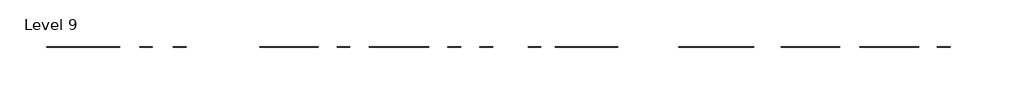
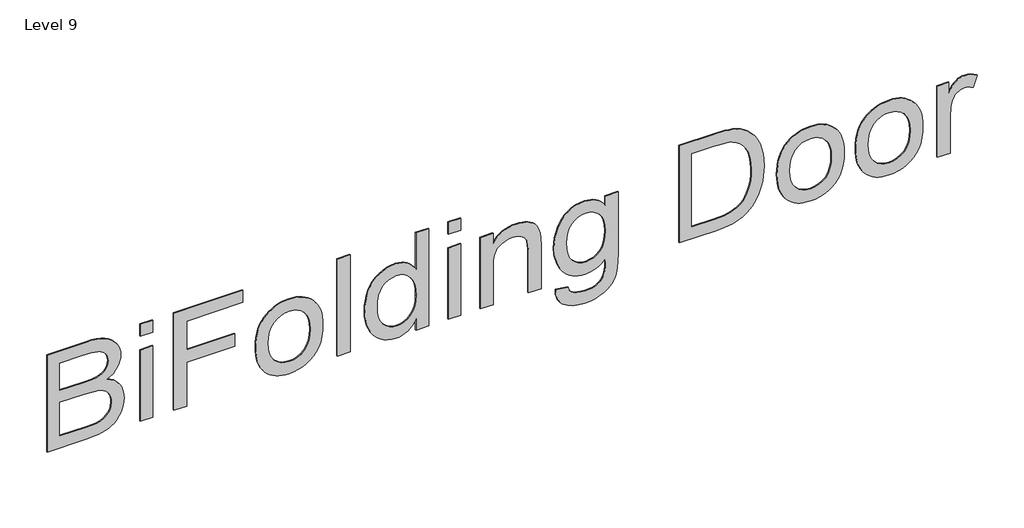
# One storey: 1 proxy.
"""IFC4 building model written with IfcOpenShell, lengths in millimetres."""

from ifc_helpers import new_model, si_unit, frame, origin, place, context, project, spatial, polyline, outline, extrude, element, save

model = new_model("IFC4")

# Units and contexts
model_context = context("Model", 3, world=origin())
ifc_project = project(units=[si_unit("LENGTHUNIT", "METRE", prefix="MILLI")], contexts=[model_context])

# Site, building, storey
site = spatial("IfcSite", under=ifc_project)
building = spatial("IfcBuilding", under=site)
storey = spatial("IfcBuildingStorey", under=building, Name="Level 9", Elevation=24000.0)

# Proxy
placement = place(None, origin())
element("IfcBuildingElementProxy", 1, Name="1200mm Arial", ObjectType="1200mm Arial", at=placement, inside=storey, context=model_context, shape_type="SweptSolid", body=[
    extrude(outline(polyline([(25020.9429249, -199630.0506511), (25020.9429249, -199185.0194011), (25026.0000982, -199082.1184778), (25032.3215648, -199037.2046816), (25041.1716181, -198996.6486625), (25052.4874917, -198959.8765566), (25066.2064192, -198926.3145005), (25082.3284008, -198895.9624941), (25100.8534363, -198868.8205375), (25122.6781877, -198844.3147669), (25148.699317, -198821.8713187), (25178.9168241, -198801.490193), (25213.330709, -198783.1713897), (25250.5870123, -198768.0447029), (25289.3317743, -198757.2399267), (25329.5649952, -198750.7570609), (25371.2866749, -198748.5961056), (25422.1991394, -198751.7613223), (25469.6325556, -198761.2569721), (25513.5869235, -198777.0830552), (25554.0622431, -198799.2395716), (25589.9645868, -198827.2781902), (25620.2000272, -198860.7505801), (25644.7685641, -198899.6567413), (25663.6701976, -198943.9966738), (25685.0197182, -198906.6327711), (25709.4716891, -198874.3081085), (25737.0261103, -198847.0226859), (25767.6829817, -198824.7765034), (25800.4201089, -198807.5157612), (25834.2152971, -198795.1866596), (25869.0685464, -198787.7891987), (25904.9798567, -198785.3233784), (25943.8591181, -198788.2554629), (25981.877584, -198797.0517164), (26019.0352545, -198811.712139), (26055.3321295, -198832.2367306), (26088.8762523, -198857.9350616), (26117.7756664, -198888.1167022), (26142.0303716, -198922.7816525), (26161.6403681, -198961.9299125), (26176.7670549, -199006.7002427), (26187.5718312, -199058.2314039), (26194.0546969, -199116.5233961), (26196.2156522, -199181.5762193), (26196.2156522, -199630.0506511), (25020.9429249, -199630.0506511)]), holes=[polyline([(25718.7611067, -199483.1415602), (26049.3065613, -199483.1415602), (26049.3065613, -199235.2324693), (26045.4688482, -199121.1770716), (26040.6717069, -199078.8904948), (26033.955709, -199046.4313329), (26024.6573248, -199020.4819366), (26012.1130243, -198997.7246568), (25996.3228077, -198978.1594934), (25977.2866749, -198961.7864466), (25955.802655, -198948.8565815), (25932.6687772, -198939.6209636), (25907.8850414, -198934.0795929), (25881.4514476, -198932.2324693), (25853.8432268, -198934.2140921), (25828.6918596, -198940.1589608), (25805.9973461, -198950.0670751), (25785.7596863, -198963.9384352), (25768.1044128, -198981.7192413), (25753.1570584, -199003.3556937), (25740.9176231, -199028.8477924), (25731.3861067, -199058.1955375), (25721.9173567, -199121.0336056), (25718.7611067, -199214.8603102), (25718.7611067, -199483.1415602)]), polyline([(25167.8520158, -199483.1415602), (25571.8520158, -199483.1415602), (25571.8520158, -199196.209742), (25566.9383084, -199091.5872278), (25560.7961742, -199049.6862157), (25552.1971863, -199014.725367), (25540.567481, -198985.4134885), (25525.3331948, -198960.4593869), (25506.4943276, -198939.8630623), (25484.0508795, -198923.6245147), (25458.7291465, -198911.322313), (25431.2554249, -198902.5350261), (25401.6297147, -198897.2626539), (25369.8520158, -198895.5051966), (25316.9848283, -198901.4948983), (25293.0798212, -198908.9820254), (25270.8605385, -198919.4640034), (25233.1648709, -198946.7225261), (25205.5835499, -198980.5804806), (25186.3232516, -199022.2214608), (25173.5906522, -199072.8290602), (25169.2866749, -199115.8688329), (25167.8520158, -199181.8631511), (25167.8520158, -199483.1415602)])]), frame((0.0, 24202.6264647, 0.0), z_axis=(0.0, 1.0, 0.0), x_axis=(0.0, 0.0, 1.0)), (0.0, 0.0, 1.0), 10.0),
    extrude(outline(polyline([(-198418.0506511, 24202.6264647), (-198564.959742, 24202.6264647), (-198564.959742, 24212.6264647), (-198418.0506511, 24212.6264647), (-198418.0506511, 24202.6264647)])), frame((0.0, 0.0, 25020.9429249), z_axis=(0.0, 0.0, 1.0), x_axis=(1.0, 0.0, 0.0)), (0.0, 0.0, 1.0), 863.0909091),
    extrude(outline(polyline([(-198418.0506511, 24202.6264647), (-198564.959742, 24202.6264647), (-198564.959742, 24212.6264647), (-198418.0506511, 24212.6264647), (-198418.0506511, 24202.6264647)])), frame((0.0, 0.0, 26049.3065613), z_axis=(0.0, 0.0, 1.0), x_axis=(1.0, 0.0, 0.0)), (0.0, 0.0, 1.0), 146.9090909),
    extrude(outline(polyline([(25020.9429249, -198179.3233784), (25020.9429249, -198032.4142875), (25553.4883795, -198032.4142875), (25553.4883795, -197481.5051966), (25700.3974704, -197481.5051966), (25700.3974704, -198032.4142875), (26049.3065613, -198032.4142875), (26049.3065613, -197389.6870147), (26196.2156522, -197389.6870147), (26196.2156522, -198179.3233784), (25020.9429249, -198179.3233784)])), frame((0.0, 24202.6264647, 0.0), z_axis=(0.0, 1.0, 0.0), x_axis=(0.0, 0.0, 1.0)), (0.0, 0.0, 1.0), 10.0),
    extrude(outline(polyline([(25452.4883795, -197242.7779238), (25399.5673922, -197241.1123743), (25349.8385215, -197236.1157257), (25303.3017672, -197227.787978), (25259.9571295, -197216.1291312), (25219.8046081, -197201.1391854), (25182.8442033, -197182.8181404), (25149.075915, -197161.1659964), (25118.4997431, -197136.1827534), (25091.3308866, -197108.5005579), (25067.7845442, -197078.7515566), (25047.8607161, -197046.9357496), (25031.5594022, -197013.0531369), (25018.8806025, -196977.1037184), (25009.824317, -196939.0874941), (25004.3905456, -196899.0044641), (25002.5792885, -196856.8546284), (25005.8700378, -196803.960541), (25015.7422857, -196753.1646426), (25032.1960322, -196704.4669331), (25055.2312772, -196657.8674125), (25084.2203574, -196615.033872), (25118.5356096, -196577.6341028), (25158.1770336, -196545.6681049), (25203.1446295, -196519.1358784), (25255.2048212, -196498.2974551), (25316.1240329, -196483.412867), (25385.9022644, -196474.4821142), (25464.5395158, -196471.5051966), (25514.440994, -196473.1886793), (25561.5673035, -196478.2391277), (25605.9184443, -196486.6565415), (25647.4944164, -196498.440921), (25686.2952198, -196513.592266), (25722.3208546, -196532.1105765), (25755.5713207, -196553.9958526), (25786.0466181, -196579.2480943), (25813.3163491, -196607.1544553), (25836.950116, -196637.0020893), (25856.9479187, -196668.7909964), (25873.3097573, -196702.5211767), (25886.0356318, -196738.19263), (25895.1255421, -196775.8053564), (25900.5794883, -196815.3593558), (25902.3974704, -196856.8546284), (25896.4257019, -196930.2733073), (25888.9609913, -196964.8037583), (25878.5103965, -196997.881617), (25865.0739175, -197029.5068833), (25848.6515542, -197059.6795573), (25829.2433067, -197088.399639), (25806.8491749, -197115.6671284), (25776.0802207, -197145.4587211), (25741.4466536, -197171.2781014), (25702.9484736, -197193.1252694), (25660.5856806, -197211.000225), (25614.3582747, -197224.9029682), (25564.2662559, -197234.8334991), (25510.3096241, -197240.7918176), (25452.4883795, -197242.7779238)]), holes=[polyline([(25452.7753113, -197095.8688329), (25524.0151018, -197091.6186554), (25585.6606096, -197078.8681227), (25637.7118347, -197057.6172349), (25680.1687772, -197027.865992), (25713.1211032, -196991.6767164), (25736.6584789, -196951.1117306), (25750.7809043, -196906.1710346), (25755.4883795, -196856.8546284), (25750.7629711, -196808.1389856), (25736.5867459, -196763.565921), (25712.959704, -196723.1354345), (25679.8818454, -196686.8475261), (25637.6221685, -196656.9079842), (25586.4496721, -196635.5225971), (25526.364356, -196622.6913649), (25457.3662204, -196618.4142875), (25384.4496721, -196622.664465), (25321.5040045, -196635.4149977), (25268.5292175, -196656.6658855), (25225.5253113, -196686.4171284), (25192.2591536, -196722.5705375), (25168.4976124, -196763.0279238), (25154.2406877, -196807.7892875), (25149.4883795, -196856.8546284), (25154.2137878, -196906.1710346), (25168.390013, -196951.1117306), (25192.0170549, -196991.6767164), (25225.0949135, -197027.865992), (25267.6773887, -197057.6172349), (25319.81828, -197078.8681227), (25381.5175876, -197091.6186554), (25452.7753113, -197095.8688329)])]), frame((0.0, 24202.6264647, 0.0), z_axis=(0.0, 1.0, 0.0), x_axis=(0.0, 0.0, 1.0)), (0.0, 0.0, 1.0), 10.0),
    extrude(outline(polyline([(-196159.3233784, 24202.6264647), (-196306.2324693, 24202.6264647), (-196306.2324693, 24212.6264647), (-196159.3233784, 24212.6264647), (-196159.3233784, 24202.6264647)])), frame((0.0, 0.0, 25020.9429249), z_axis=(0.0, 0.0, 1.0), x_axis=(1.0, 0.0, 0.0)), (0.0, 0.0, 1.0), 1175.2727273),
    extrude(outline(polyline([(25020.9429249, -195406.4142875), (25020.9429249, -195259.5051966), (26196.2156522, -195259.5051966), (26196.2156522, -195406.4142875), (25758.3576976, -195406.4142875), (25788.8531699, -195426.445715), (25816.3537914, -195449.2388613), (25840.859562, -195474.7937264), (25862.3704817, -195503.1103102), (25879.8822893, -195533.8478812), (25892.3907232, -195566.6657079), (25899.8957836, -195601.5637903), (25902.3974704, -195638.5421284), (25898.9004888, -195689.1048947), (25888.4095442, -195737.2108073), (25870.9246366, -195782.8598663), (25846.4457658, -195826.0520716), (25815.4033297, -195865.3975971), (25778.227726, -195899.506617), (25734.9189547, -195928.3791312), (25685.4770158, -195952.0151397), (25631.4800343, -195970.405676), (25574.5061351, -195983.5417733), (25514.5553184, -195991.4234316), (25451.627584, -195994.0506511), (25387.5252225, -195991.1992662), (25327.2067743, -195982.6451113), (25270.6722395, -195968.3881866), (25217.9216181, -195948.428492), (25169.8695052, -195923.2860914), (25127.4304959, -195893.4810488), (25090.6045904, -195859.0133642), (25059.3917885, -195819.8830375), (25034.5363198, -195777.4171284), (25016.7824135, -195732.9426966), (25006.1300698, -195686.459742), (25002.5792885, -195637.9682647), (25005.0316589, -195600.8957772), (25012.3887701, -195566.145644), (25024.650622, -195533.7178652), (25041.8172147, -195503.6124409), (25063.8885481, -195475.8293709), (25090.8646224, -195450.3686554), (25122.7454373, -195427.2302942), (25159.5309931, -195406.4142875), (25020.9429249, -195406.4142875)]), holes=[polyline([(25452.2014476, -195847.1415602), (25525.5573603, -195843.2679806), (25588.3864618, -195831.647242), (25640.6887523, -195812.2793443), (25682.4642317, -195785.1642875), (25714.4122964, -195752.2567946), (25737.2323425, -195715.5115886), (25750.9243702, -195674.9286696), (25755.4883795, -195630.5080375), (25750.7360712, -195585.0383109), (25736.4791465, -195543.3166312), (25712.7176053, -195505.3429984), (25679.4514476, -195471.1174125), (25636.0350769, -195442.8097953), (25581.8228965, -195422.5900687), (25516.8149064, -195410.4582328), (25441.0111067, -195406.4142875), (25371.8695052, -195410.3864998), (25312.2145868, -195422.3031369), (25262.0463518, -195442.1641987), (25221.3647999, -195469.9696852), (25189.918866, -195503.4600083), (25167.4574846, -195540.3755801), (25153.9806557, -195580.7164004), (25149.4883795, -195624.4824693), (25154.1958546, -195668.0423059), (25168.31828, -195708.625225), (25191.8556557, -195746.2312264), (25224.8079817, -195780.8603102), (25267.2649242, -195809.8583571), (25319.3161493, -195830.5712477), (25380.9616572, -195842.9989821), (25452.2014476, -195847.1415602)])]), frame((0.0, 24202.6264647, 0.0), z_axis=(0.0, 1.0, 0.0), x_axis=(0.0, 0.0, 1.0)), (0.0, 0.0, 1.0), 10.0),
    extrude(outline(polyline([(-194892.2324693, 24202.6264647), (-195039.1415602, 24202.6264647), (-195039.1415602, 24212.6264647), (-194892.2324693, 24212.6264647), (-194892.2324693, 24202.6264647)])), frame((0.0, 0.0, 25020.9429249), z_axis=(0.0, 0.0, 1.0), x_axis=(1.0, 0.0, 0.0)), (0.0, 0.0, 1.0), 863.0909091),
    extrude(outline(polyline([(-194892.2324693, 24202.6264647), (-195039.1415602, 24202.6264647), (-195039.1415602, 24212.6264647), (-194892.2324693, 24212.6264647), (-194892.2324693, 24202.6264647)])), frame((0.0, 0.0, 26049.3065613), z_axis=(0.0, 0.0, 1.0), x_axis=(1.0, 0.0, 0.0)), (0.0, 0.0, 1.0), 146.9090909),
    extrude(outline(polyline([(25020.9429249, -194671.8688329), (25020.9429249, -194524.959742), (25478.8861067, -194524.959742), (25553.0400485, -194520.7723308), (25614.246192, -194508.2100971), (25639.9938393, -194498.7884219), (25662.5045371, -194487.273041), (25681.7782854, -194473.6639545), (25697.815084, -194457.9611625), (25723.0471508, -194422.8747811), (25741.0700556, -194384.6142164), (25751.8837985, -194343.1794686), (25755.4883795, -194298.5705375), (25753.8833546, -194270.5319189), (25749.06828, -194244.3762903), (25741.0431557, -194220.1036518), (25729.8079817, -194197.7140034), (25715.8828219, -194177.8888081), (25699.7877403, -194161.3095289), (25681.5227367, -194147.976166), (25661.0878113, -194137.8887193), (25636.8241394, -194130.4822917), (25607.0728965, -194125.1919863), (25531.1076976, -194120.959742), (25020.9429249, -194120.959742), (25020.9429249, -193974.0506511), (25550.9059931, -193974.0506511), (25637.2007374, -193975.9874409), (25692.9372431, -193981.7978102), (25751.2202687, -193999.1213187), (25800.9670726, -194025.8418443), (25822.6124917, -194043.5419508), (25842.0700556, -194065.2232363), (25859.3397644, -194090.8857008), (25874.4216181, -194120.5293443), (25886.6610535, -194152.9257399), (25895.4035073, -194186.8464608), (25900.6489796, -194222.2915069), (25902.3974704, -194259.2608784), (25900.2275485, -194301.4488223), (25893.7177829, -194341.072313), (25882.8681735, -194378.1313507), (25867.6787204, -194412.6259352), (25848.1494235, -194444.5560666), (25824.2802829, -194473.9217448), (25796.0712985, -194500.72297), (25763.5224704, -194524.959742), (25884.033834, -194524.959742), (25884.033834, -194671.8688329), (25020.9429249, -194671.8688329)])), frame((0.0, 24202.6264647, 0.0), z_axis=(0.0, 1.0, 0.0), x_axis=(0.0, 0.0, 1.0)), (0.0, 0.0, 1.0), 10.0),
    extrude(outline(polyline([(24947.4883795, -193808.7779238), (24882.8121543, -193804.3394473), (24853.7221996, -193797.6077578), (24826.7976834, -193787.8677676), (24802.0386058, -193775.1194766), (24779.4449668, -193759.3628848), (24759.0167664, -193740.5979922), (24740.7540045, -193718.8247988), (24710.6889299, -193668.6386305), (24689.2138766, -193611.1895005), (24676.3288447, -193546.4774089), (24672.033834, -193474.5023556), (24675.0824846, -193413.323112), (24684.2284363, -193357.1831085), (24699.4716891, -193306.082345), (24720.8122431, -193260.0208216), (24747.3982694, -193219.4110027), (24778.3779391, -193184.6653528), (24813.7512523, -193155.783872), (24853.518209, -193132.7665602), (24902.8256486, -193115.1919863), (24966.8204107, -193102.6387193), (25045.5024952, -193095.1067591), (25138.8719022, -193092.5961056), (25884.033834, -193092.5961056), (25884.033834, -193239.5051966), (25773.8520158, -193239.5051966), (25803.9798567, -193263.5402196), (25830.0906522, -193289.1623343), (25852.1844022, -193316.3715407), (25870.2611067, -193345.1678386), (25884.3207658, -193375.5512282), (25894.3633795, -193407.5217093), (25900.3889476, -193441.0792821), (25902.3974704, -193476.2239466), (25898.8466891, -193528.2751717), (25888.1943454, -193576.8294153), (25870.4404391, -193621.8866774), (25845.5849704, -193663.4469579), (25814.2107694, -193700.9094934), (25776.9006664, -193733.6735204), (25733.6546614, -193761.7390389), (25684.4727545, -193785.1060488), (25631.1303361, -193803.496585), (25575.4027971, -193816.6326823), (25517.2901373, -193824.5143407), (25456.7923567, -193827.1415602), (25370.31828, -193821.2863578), (25329.475329, -193813.9673548), (25290.2284363, -193803.7207505), (25252.5776018, -193790.5465451), (25216.5228255, -193774.4447385), (25182.0641074, -193755.4153306), (25149.2014476, -193733.4583216), (25119.1408564, -193708.8337432), (25093.0883439, -193681.8016277), (25071.0439104, -193652.3619748), (25053.0075556, -193620.5147846), (25038.9792797, -193586.2600572), (25028.9590826, -193549.5977924), (25022.9469643, -193510.5279904), (25020.9429249, -193469.0506511), (25022.6645158, -193435.3989288), (25027.8292885, -193403.1639323), (25036.4372431, -193372.3456618), (25048.4883795, -193342.944117), (25063.9826976, -193314.9592981), (25082.9201976, -193288.3912051), (25105.3008795, -193263.2398379), (25131.1247431, -193239.5051966), (25023.0231806, -193241.5854522), (24959.8264476, -193249.5478102), (24928.2639476, -193261.0250829), (24900.4315613, -193276.8063329), (24876.3292885, -193296.8915602), (24855.9571295, -193321.2807647), (24839.763415, -193350.5836767), (24828.196476, -193385.4100261), (24821.2563127, -193425.759813), (24818.9429249, -193471.6330375), (24820.9873141, -193514.4396781), (24827.1204817, -193552.4760772), (24837.3424278, -193585.7422349), (24851.6531522, -193614.2381511), (24865.6410783, -193631.8485914), (24883.2156522, -193645.6571852), (24904.3768738, -193655.6639323), (24929.1247431, -193661.8688329), (24947.4883795, -193808.7779238)]), holes=[polyline([(25466.8349704, -193680.2324693), (25534.0218489, -193676.2602569), (25592.4035073, -193664.3436198), (25641.9799455, -193644.4825581), (25682.7511635, -193616.6770716), (25714.5736955, -193583.2046816), (25737.3040755, -193546.3429096), (25750.9423035, -193506.0917555), (25755.4883795, -193462.4512193), (25750.8705705, -193418.0664537), (25737.0171437, -193377.0172704), (25713.9280989, -193339.3036696), (25681.6034363, -193304.9256511), (25640.2045549, -193276.3042022), (25589.8928539, -193255.8603102), (25530.6683333, -193243.593975), (25462.5309931, -193239.5051966), (25391.4257019, -193243.4774089), (25330.4706238, -193255.394046), (25279.6657587, -193275.2551078), (25239.0111067, -193303.0605943), (25207.8790045, -193336.7123166), (25185.6417885, -193374.1120858), (25172.299459, -193415.2599018), (25167.8520158, -193460.1557647), (25172.3263589, -193505.4999586), (25185.749388, -193546.8450403), (25208.1211032, -193584.1910098), (25239.4415045, -193617.537867), (25280.4996543, -193644.9667555), (25332.0846153, -193664.5588187), (25394.1963873, -193676.3140566), (25466.8349704, -193680.2324693)])]), frame((0.0, 24202.6264647, 0.0), z_axis=(0.0, 1.0, 0.0), x_axis=(0.0, 0.0, 1.0)), (0.0, 0.0, 1.0), 10.0),
    extrude(outline(polyline([(25020.9429249, -192394.7779238), (25020.9429249, -191969.8319011), (25025.9642317, -191869.2264323), (25041.0281522, -191780.8872988), (25065.811888, -191704.6710346), (25081.7276373, -191671.0551788), (25099.9926408, -191640.4341738), (25121.234562, -191611.8844579), (25146.0810641, -191584.4824693), (25174.5321472, -191558.2282079), (25206.5878113, -191533.1216738), (25242.678454, -191509.7008642), (25283.2344732, -191488.5037761), (25328.2558688, -191469.5304096), (25377.7426408, -191452.7807647), (25431.3540577, -191439.0977037), (25488.749388, -191429.3240886), (25549.9286316, -191423.4599196), (25614.8917885, -191421.5051966), (25691.3232516, -191424.392448), (25763.3790045, -191433.0542022), (25831.0590471, -191447.4904593), (25894.3633795, -191467.7012193), (25952.7540045, -191493.7223485), (26005.6929249, -191525.5897136), (26053.1801408, -191563.3033144), (26095.2156522, -191606.8631511), (26123.2811706, -191644.5588187), (26146.6481806, -191685.912867), (26165.316682, -191730.925296), (26179.2866749, -191779.5961056), (26186.6931025, -191819.8203599), (26191.9834079, -191868.1863045), (26196.2156522, -191989.3432647), (26196.2156522, -192394.7779238), (25020.9429249, -192394.7779238)]), holes=[polyline([(25167.8520158, -192247.8688329), (26049.3065613, -192247.8688329), (26049.3065613, -191991.9256511), (26047.8360357, -191925.1064039), (26043.424459, -191868.1145716), (26036.0718312, -191820.9501539), (26025.7781522, -191783.6131511), (26005.2625272, -191740.4030126), (25976.7128113, -191700.5822562), (25940.1290045, -191664.1508819), (25895.5111067, -191631.1088897), (25841.6396579, -191603.6800012), (25777.2951976, -191584.087938), (25702.477726, -191572.3327001), (25617.1872431, -191568.4142875), (25554.3402083, -191570.4138436), (25496.3530812, -191576.4125119), (25443.2258617, -191586.4102924), (25394.9585499, -191600.4071852), (25351.4614796, -191617.9907257), (25312.6449846, -191638.7484494), (25278.5090648, -191662.6803564), (25249.0537204, -191689.7864466), (25230.7797502, -191711.7725971), (25214.6936351, -191737.2736625), (25200.7953752, -191766.2896426), (25189.0849704, -191798.8205375), (25179.7955528, -191836.3548059), (25173.1602545, -191880.3809068), (25167.8520158, -191987.9086056), (25167.8520158, -192247.8688329)])]), frame((0.0, 24202.6264647, 0.0), z_axis=(0.0, 1.0, 0.0), x_axis=(0.0, 0.0, 1.0)), (0.0, 0.0, 1.0), 10.0),
    extrude(outline(polyline([(25452.4883795, -191274.5961056), (25399.5673922, -191272.9305561), (25349.8385215, -191267.9339075), (25303.3017672, -191259.6061598), (25259.9571295, -191247.947313), (25219.8046081, -191232.9573672), (25182.8442033, -191214.6363223), (25149.075915, -191192.9841783), (25118.4997431, -191168.0009352), (25091.3308866, -191140.3187397), (25067.7845442, -191110.5697385), (25047.8607161, -191078.7539315), (25031.5594022, -191044.8713187), (25018.8806025, -191008.9219002), (25009.824317, -190970.905676), (25004.3905456, -190930.8226459), (25002.5792885, -190888.6728102), (25005.8700378, -190835.7787228), (25015.7422857, -190784.9828244), (25032.1960322, -190736.2851149), (25055.2312772, -190689.6855943), (25084.2203574, -190646.8520538), (25118.5356096, -190609.4522846), (25158.1770336, -190577.4862868), (25203.1446295, -190550.9540602), (25255.2048212, -190530.1156369), (25316.1240329, -190515.2310488), (25385.9022644, -190506.300296), (25464.5395158, -190503.3233784), (25514.440994, -190505.0068611), (25561.5673035, -190510.0573095), (25605.9184443, -190518.4747234), (25647.4944164, -190530.2591028), (25686.2952198, -190545.4104478), (25722.3208546, -190563.9287583), (25755.5713207, -190585.8140344), (25786.0466181, -190611.0662761), (25813.3163491, -190638.9726371), (25836.950116, -190668.8202711), (25856.9479187, -190700.6091783), (25873.3097573, -190734.3393585), (25886.0356318, -190770.0108118), (25895.1255421, -190807.6235382), (25900.5794883, -190847.1775376), (25902.3974704, -190888.6728102), (25896.4257019, -190962.0914892), (25888.9609913, -190996.6219402), (25878.5103965, -191029.6997988), (25865.0739175, -191061.3250652), (25848.6515542, -191091.4977392), (25829.2433067, -191120.2178208), (25806.8491749, -191147.4853102), (25776.0802207, -191177.2769029), (25741.4466536, -191203.0962832), (25702.9484736, -191224.9434512), (25660.5856806, -191242.8184068), (25614.3582747, -191256.72115), (25564.2662559, -191266.6516809), (25510.3096241, -191272.6099995), (25452.4883795, -191274.5961056)]), holes=[polyline([(25452.7753113, -191127.6870147), (25524.0151018, -191123.4368372), (25585.6606096, -191110.6863045), (25637.7118347, -191089.4354167), (25680.1687772, -191059.6841738), (25713.1211032, -191023.4948983), (25736.6584789, -190982.9299125), (25750.7809043, -190937.9892164), (25755.4883795, -190888.6728102), (25750.7629711, -190839.9571674), (25736.5867459, -190795.3841028), (25712.959704, -190754.9536163), (25679.8818454, -190718.6657079), (25637.6221685, -190688.726166), (25586.4496721, -190667.3407789), (25526.364356, -190654.5095467), (25457.3662204, -190650.2324693), (25384.4496721, -190654.4826468), (25321.5040045, -190667.2331795), (25268.5292175, -190688.4840673), (25225.5253113, -190718.2353102), (25192.2591536, -190754.3887193), (25168.4976124, -190794.8461056), (25154.2406877, -190839.6074693), (25149.4883795, -190888.6728102), (25154.2137878, -190937.9892164), (25168.390013, -190982.9299125), (25192.0170549, -191023.4948983), (25225.0949135, -191059.6841738), (25267.6773887, -191089.4354167), (25319.81828, -191110.6863045), (25381.5175876, -191123.4368372), (25452.7753113, -191127.6870147)])]), frame((0.0, 24202.6264647, 0.0), z_axis=(0.0, 1.0, 0.0), x_axis=(0.0, 0.0, 1.0)), (0.0, 0.0, 1.0), 10.0),
    extrude(outline(polyline([(25452.4883795, -190374.7779238), (25399.5673922, -190373.1123743), (25349.8385215, -190368.1157257), (25303.3017672, -190359.787978), (25259.9571295, -190348.1291312), (25219.8046081, -190333.1391854), (25182.8442033, -190314.8181404), (25149.075915, -190293.1659964), (25118.4997431, -190268.1827534), (25091.3308866, -190240.5005579), (25067.7845442, -190210.7515566), (25047.8607161, -190178.9357496), (25031.5594022, -190145.0531369), (25018.8806025, -190109.1037184), (25009.824317, -190071.0874941), (25004.3905456, -190031.0044641), (25002.5792885, -189988.8546284), (25005.8700378, -189935.960541), (25015.7422857, -189885.1646426), (25032.1960322, -189836.4669331), (25055.2312772, -189789.8674125), (25084.2203574, -189747.033872), (25118.5356096, -189709.6341028), (25158.1770336, -189677.6681049), (25203.1446295, -189651.1358784), (25255.2048212, -189630.2974551), (25316.1240329, -189615.412867), (25385.9022644, -189606.4821142), (25464.5395158, -189603.5051966), (25514.440994, -189605.1886793), (25561.5673035, -189610.2391277), (25605.9184443, -189618.6565415), (25647.4944164, -189630.440921), (25686.2952198, -189645.592266), (25722.3208546, -189664.1105765), (25755.5713207, -189685.9958526), (25786.0466181, -189711.2480943), (25813.3163491, -189739.1544553), (25836.950116, -189769.0020893), (25856.9479187, -189800.7909964), (25873.3097573, -189834.5211767), (25886.0356318, -189870.19263), (25895.1255421, -189907.8053564), (25900.5794883, -189947.3593558), (25902.3974704, -189988.8546284), (25896.4257019, -190062.2733073), (25888.9609913, -190096.8037583), (25878.5103965, -190129.881617), (25865.0739175, -190161.5068833), (25848.6515542, -190191.6795573), (25829.2433067, -190220.399639), (25806.8491749, -190247.6671284), (25776.0802207, -190277.4587211), (25741.4466536, -190303.2781014), (25702.9484736, -190325.1252694), (25660.5856806, -190343.000225), (25614.3582747, -190356.9029682), (25564.2662559, -190366.8334991), (25510.3096241, -190372.7918176), (25452.4883795, -190374.7779238)]), holes=[polyline([(25452.7753113, -190227.8688329), (25524.0151018, -190223.6186554), (25585.6606096, -190210.8681227), (25637.7118347, -190189.6172349), (25680.1687772, -190159.865992), (25713.1211032, -190123.6767164), (25736.6584789, -190083.1117306), (25750.7809043, -190038.1710346), (25755.4883795, -189988.8546284), (25750.7629711, -189940.1389856), (25736.5867459, -189895.565921), (25712.959704, -189855.1354345), (25679.8818454, -189818.8475261), (25637.6221685, -189788.9079842), (25586.4496721, -189767.5225971), (25526.364356, -189754.6913649), (25457.3662204, -189750.4142875), (25384.4496721, -189754.664465), (25321.5040045, -189767.4149977), (25268.5292175, -189788.6658855), (25225.5253113, -189818.4171284), (25192.2591536, -189854.5705375), (25168.4976124, -189895.0279238), (25154.2406877, -189939.7892875), (25149.4883795, -189988.8546284), (25154.2137878, -190038.1710346), (25168.390013, -190083.1117306), (25192.0170549, -190123.6767164), (25225.0949135, -190159.865992), (25267.6773887, -190189.6172349), (25319.81828, -190210.8681227), (25381.5175876, -190223.6186554), (25452.7753113, -190227.8688329)])]), frame((0.0, 24202.6264647, 0.0), z_axis=(0.0, 1.0, 0.0), x_axis=(0.0, 0.0, 1.0)), (0.0, 0.0, 1.0), 10.0),
    extrude(outline(polyline([(25020.9429249, -189438.2324693), (25020.9429249, -189291.3233784), (25474.5821295, -189291.3233784), (25564.1048567, -189285.3695431), (25606.0686351, -189277.9272491), (25646.1673567, -189267.5080375), (25670.4489618, -189258.1737868), (25691.9329817, -189246.2392164), (25710.6194164, -189231.7043265), (25726.5082658, -189214.569117), (25739.1870655, -189195.5509174), (25748.243351, -189175.3670573), (25753.6771224, -189154.0175368), (25755.4883795, -189131.5023556), (25753.6053894, -189105.678492), (25747.9564192, -189079.8546284), (25738.5414689, -189054.0307647), (25725.3605385, -189028.2069011), (25857.0622431, -188979.1415602), (25876.896405, -189016.4426966), (25891.0636635, -189053.4569011), (25899.5640187, -189090.1841738), (25902.3974704, -189126.6245147), (25900.6220797, -189151.0854522), (25895.2959079, -189174.5421284), (25886.4189547, -189196.9945431), (25873.9912204, -189218.4426966), (25855.9862488, -189239.8549835), (25830.377584, -189262.1997988), (25797.165226, -189285.4771426), (25756.3491749, -189309.6870147), (25884.033834, -189309.6870147), (25884.033834, -189438.2324693), (25020.9429249, -189438.2324693)])), frame((0.0, 24202.6264647, 0.0), z_axis=(0.0, 1.0, 0.0), x_axis=(0.0, 0.0, 1.0)), (0.0, 0.0, 1.0), 10.0),
])

save(model, "model.ifc")
